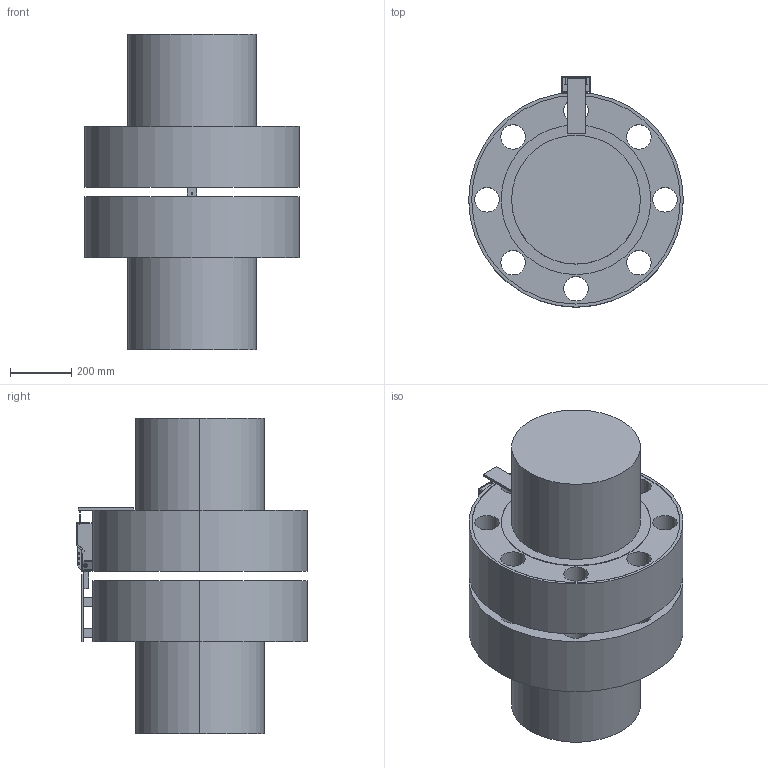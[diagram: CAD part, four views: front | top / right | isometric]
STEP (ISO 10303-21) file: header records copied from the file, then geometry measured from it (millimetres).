
FILE_DESCRIPTION (( 'STEP AP203' ), '1' );
FILE_NAME ('珋部聆講尨砩.STEP', '2025-01-22T10:19:26', ( '' ), ( '' ), 'SwSTEP 2.0', 'SolidWorks 2012', '' );
FILE_SCHEMA (( 'CONFIG_CONTROL_DESIGN' ));
Products named in the file (26): 20250116-06-痀ん覃淕啣; 傷醱講輸; 聆擒等啋; 珋部聆講尨砩; 噤砃嫖盄; DC5521脣釱; 敦諳; ISO 4762 M3 x 8 --- 8N_ISO 4762 M3 x 8 --- 8N; 諷秶啣蚾饜; 20250116-04-聆擒等啋奻裔; WJ124-3.81-3P; WJ124-3.81-2P; C7499337; 485耀輸; ESP32-S3; 憤腴芛蹟隊M4-25; 毀扞產薛; 20250116-03-毀扞噩殤; 諷秶菁唳; CJ-HLA30-噤砃; CJ-HLA30; 20250116-02-假蚾啣; 20250116-01-聆擒等啋俋褲; 勤謫; 20250116-05-痀ん嘐隅啣; 嘐隅棠釱
Assembly tree (35 placements, depth 4):
  珋部聆講尨砩
    勤謫  x2
    20250116-05-痀ん嘐隅啣
    嘐隅棠釱  x2
    聆擒等啋
      20250116-01-聆擒等啋俋褲
      CJ-HLA30
      CJ-HLA30-噤砃
      20250116-02-假蚾啣
      20250116-03-毀扞噩殤
      毀扞產薛
      憤腴芛蹟隊M4-25  x4
      諷秶啣蚾饜
        諷秶菁唳
        ESP32-S3
        485耀輸  x2
        C7499337  x2
        WJ124-3.81-2P
        WJ124-3.81-3P  x2
      20250116-04-聆擒等啋奻裔
      敦諳  x2
      DC5521脣釱
      ISO 4762 M3 x 8 --- 8N_ISO 4762 M3 x 8 --- 8N  x2
      噤砃嫖盄
    20250116-06-痀ん覃淕啣
    傷醱講輸
Bounding box: 700 x 751.5 x 1030 mm (x, y, z)
Volume: 220981903.7 mm3; surface area: 4096785.7 mm2
Topology: 35 solids, 36 shells, 3154 faces, 8159 edges, 5372 vertices
Faces by surface type: plane 1866, cylinder 740, bspline 456, cone 76, torus 16
Entity records: 86356 total; most frequent: CARTESIAN_POINT 27758, ORIENTED_EDGE 11876, DIRECTION 10624, EDGE_CURVE 5938, VERTEX_POINT 3930, VECTOR 3888, LINE 3888, AXIS2_PLACEMENT_3D 3368
